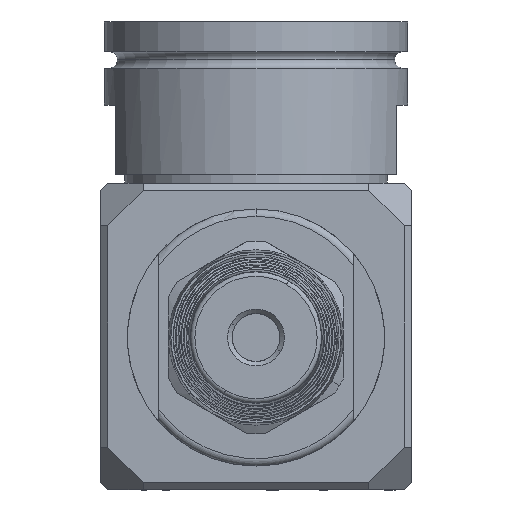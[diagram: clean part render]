
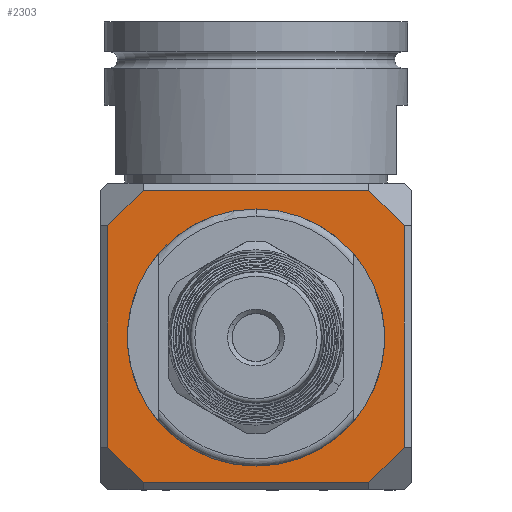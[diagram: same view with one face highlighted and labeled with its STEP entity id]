
A CAD part, front view. The second image highlights one B-rep face of the part: STEP entity #2303.
In plain terms, the highlighted planar face has unit normal (0, -1, 0).
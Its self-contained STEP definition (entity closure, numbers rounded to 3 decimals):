
#381 = ORIENTED_EDGE ( 'NONE', *, *, #17972, .T. ) ;
#1018 = CARTESIAN_POINT ( 'NONE',  ( 15.544, -22.161, -14.732 ) ) ;
#1177 = CIRCLE ( 'NONE', #18521, 16.929 ) ;
#1529 = EDGE_CURVE ( 'NONE', #6839, #15163, #13254, .T. ) ;
#1702 = ORIENTED_EDGE ( 'NONE', *, *, #1529, .T. ) ;
#2009 = DIRECTION ( 'NONE',  ( 0.707, 0., -0.707 ) ) ;
#2091 = EDGE_CURVE ( 'NONE', #3375, #14312, #9571, .T. ) ;
#2122 = CARTESIAN_POINT ( 'NONE',  ( -21.399, -22.161, -14.732 ) ) ;
#2236 = VERTEX_POINT ( 'NONE', #17800 ) ;
#2303 = ADVANCED_FACE ( 'NONE', ( #8452, #2524 ), #9859, .T. ) ;
#2464 = EDGE_LOOP ( 'NONE', ( #381, #16242 ) ) ;
#2524 = FACE_OUTER_BOUND ( 'NONE', #19770, .T. ) ;
#2691 = CARTESIAN_POINT ( 'NONE',  ( -15.544, -22.161, -54.94 ) ) ;
#2953 = DIRECTION ( 'NONE',  ( 1., 0., 0. ) ) ;
#3375 = VERTEX_POINT ( 'NONE', #15678 ) ;
#3463 = DIRECTION ( 'NONE',  ( 0., 1., 0. ) ) ;
#3469 = DIRECTION ( 'NONE',  ( 0., 0., 1. ) ) ;
#3563 = VECTOR ( 'NONE', #2953, 1000. ) ;
#3667 = VECTOR ( 'NONE', #9058, 1000. ) ;
#4509 = CARTESIAN_POINT ( 'NONE',  ( -20.383, -22.161, -55.956 ) ) ;
#4895 = CARTESIAN_POINT ( 'NONE',  ( 0., -22.161, -51.892 ) ) ;
#5388 = EDGE_CURVE ( 'NONE', #7209, #6839, #16271, .T. ) ;
#5601 = ORIENTED_EDGE ( 'NONE', *, *, #18667, .T. ) ;
#5720 = DIRECTION ( 'NONE',  ( 0.707, 0., 0.707 ) ) ;
#5731 = ORIENTED_EDGE ( 'NONE', *, *, #15960, .T. ) ;
#5746 = CARTESIAN_POINT ( 'NONE',  ( 26.352, -22.161, -25.54 ) ) ;
#5805 = EDGE_CURVE ( 'NONE', #8421, #8119, #6446, .T. ) ;
#6101 = EDGE_CURVE ( 'NONE', #14312, #6465, #19658, .T. ) ;
#6284 = CARTESIAN_POINT ( 'NONE',  ( 0., -22.161, -34.963 ) ) ;
#6291 = VECTOR ( 'NONE', #16985, 1000. ) ;
#6446 = CIRCLE ( 'NONE', #17692, 16.929 ) ;
#6465 = VERTEX_POINT ( 'NONE', #11849 ) ;
#6538 = DIRECTION ( 'NONE',  ( -1., 0., 0. ) ) ;
#6839 = VERTEX_POINT ( 'NONE', #8131 ) ;
#6864 = ORIENTED_EDGE ( 'NONE', *, *, #6101, .T. ) ;
#6947 = CARTESIAN_POINT ( 'NONE',  ( -20.383, -22.161, -19.571 ) ) ;
#7209 = VERTEX_POINT ( 'NONE', #12437 ) ;
#7896 = VECTOR ( 'NONE', #5720, 1000. ) ;
#8119 = VERTEX_POINT ( 'NONE', #18079 ) ;
#8131 = CARTESIAN_POINT ( 'NONE',  ( 20.383, -22.161, -19.571 ) ) ;
#8421 = VERTEX_POINT ( 'NONE', #4895 ) ;
#8452 = FACE_BOUND ( 'NONE', #2464, .T. ) ;
#9038 = LINE ( 'NONE', #4509, #6291 ) ;
#9058 = DIRECTION ( 'NONE',  ( -0.707, 0., -0.707 ) ) ;
#9162 = CARTESIAN_POINT ( 'NONE',  ( -26.352, -22.161, -25.54 ) ) ;
#9571 = LINE ( 'NONE', #10974, #13588 ) ;
#9859 = PLANE ( 'NONE',  #19398 ) ;
#10240 = LINE ( 'NONE', #16268, #7896 ) ;
#10662 = LINE ( 'NONE', #9162, #3667 ) ;
#10974 = CARTESIAN_POINT ( 'NONE',  ( -9.296, -22.161, -61.188 ) ) ;
#11091 = DIRECTION ( 'NONE',  ( 0., 1., 0. ) ) ;
#11334 = DIRECTION ( 'NONE',  ( 0., 0., 1. ) ) ;
#11423 = VERTEX_POINT ( 'NONE', #6947 ) ;
#11627 = CARTESIAN_POINT ( 'NONE',  ( 20.383, -22.161, -13.716 ) ) ;
#11849 = CARTESIAN_POINT ( 'NONE',  ( 15.544, -22.161, -54.94 ) ) ;
#12420 = VECTOR ( 'NONE', #6538, 1000. ) ;
#12437 = CARTESIAN_POINT ( 'NONE',  ( 20.383, -22.161, -50.101 ) ) ;
#12532 = VECTOR ( 'NONE', #11334, 1000. ) ;
#13254 = LINE ( 'NONE', #5746, #14654 ) ;
#13588 = VECTOR ( 'NONE', #2009, 1000. ) ;
#14161 = ORIENTED_EDGE ( 'NONE', *, *, #5388, .T. ) ;
#14190 = DIRECTION ( 'NONE',  ( 0., 0., 1. ) ) ;
#14312 = VERTEX_POINT ( 'NONE', #2691 ) ;
#14459 = ORIENTED_EDGE ( 'NONE', *, *, #16096, .T. ) ;
#14654 = VECTOR ( 'NONE', #16486, 1000. ) ;
#15163 = VERTEX_POINT ( 'NONE', #1018 ) ;
#15544 = ORIENTED_EDGE ( 'NONE', *, *, #18887, .T. ) ;
#15678 = CARTESIAN_POINT ( 'NONE',  ( -20.383, -22.161, -50.101 ) ) ;
#15960 = EDGE_CURVE ( 'NONE', #6465, #7209, #10240, .T. ) ;
#15985 = CARTESIAN_POINT ( 'NONE',  ( 0., -22.161, -51.892 ) ) ;
#15991 = LINE ( 'NONE', #2122, #12420 ) ;
#16096 = EDGE_CURVE ( 'NONE', #11423, #3375, #9038, .T. ) ;
#16242 = ORIENTED_EDGE ( 'NONE', *, *, #5805, .T. ) ;
#16268 = CARTESIAN_POINT ( 'NONE',  ( 9.296, -22.161, -61.188 ) ) ;
#16271 = LINE ( 'NONE', #11627, #12532 ) ;
#16486 = DIRECTION ( 'NONE',  ( -0.707, 0., 0.707 ) ) ;
#16717 = CARTESIAN_POINT ( 'NONE',  ( 21.399, -22.161, -54.94 ) ) ;
#16985 = DIRECTION ( 'NONE',  ( 0., 0., -1. ) ) ;
#17321 = CARTESIAN_POINT ( 'NONE',  ( 0., -22.161, -34.963 ) ) ;
#17496 = DIRECTION ( 'NONE',  ( 0., 0., -1. ) ) ;
#17607 = DIRECTION ( 'NONE',  ( 0., -1., 0. ) ) ;
#17692 = AXIS2_PLACEMENT_3D ( 'NONE', #17321, #3463, #14190 ) ;
#17800 = CARTESIAN_POINT ( 'NONE',  ( -15.544, -22.161, -14.732 ) ) ;
#17972 = EDGE_CURVE ( 'NONE', #8119, #8421, #1177, .T. ) ;
#18049 = ORIENTED_EDGE ( 'NONE', *, *, #2091, .T. ) ;
#18079 = CARTESIAN_POINT ( 'NONE',  ( 0., -22.161, -18.034 ) ) ;
#18521 = AXIS2_PLACEMENT_3D ( 'NONE', #6284, #11091, #3469 ) ;
#18667 = EDGE_CURVE ( 'NONE', #15163, #2236, #15991, .T. ) ;
#18887 = EDGE_CURVE ( 'NONE', #2236, #11423, #10662, .T. ) ;
#19398 = AXIS2_PLACEMENT_3D ( 'NONE', #15985, #17607, #17496 ) ;
#19658 = LINE ( 'NONE', #16717, #3563 ) ;
#19770 = EDGE_LOOP ( 'NONE', ( #14459, #18049, #6864, #5731, #14161, #1702, #5601, #15544 ) ) ;
